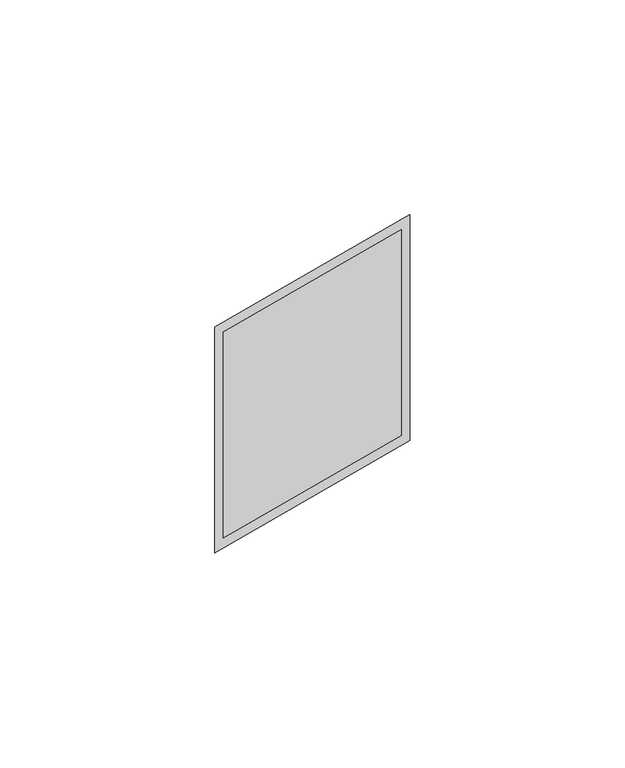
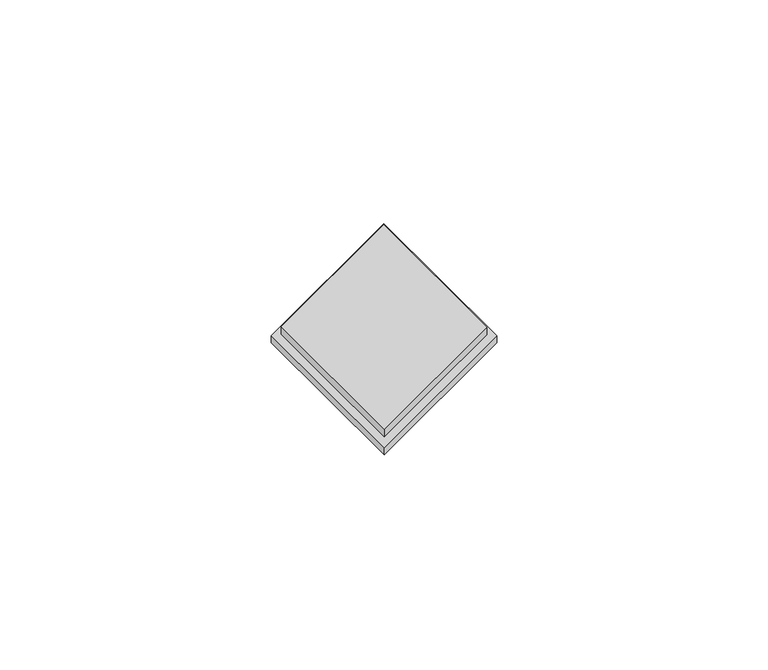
"""IFC4 building model written with IfcOpenShell, lengths in millimetres: proxy geometry, PBSHOP - CUBICA ARGENTO 4,8X8,3 : CUBICA ARGENTO - POSIÇÃO 01."""

import ifcopenshell
import ifcopenshell.guid

model = None  # the IFC model being written
_history = None  # IfcOwnerHistory: only IFC2X3 demands one
_inside = {}  # id of a spatial element -> (the spatial element, [elements in it])
_under = {}  # id of a project, library or spatial element -> (it, [spatial elements below it])
_declared = {}  # id of a project -> (the project, [libraries it declares])
_typed = {}  # id of a type object -> (the type object, [elements of that type])
_made_of = {}  # id of a material, layer set ... -> (it, [elements and type objects made of it])


def new_model(schema):
    """Start an empty IFC model of exactly this schema.

    Asked for "IFC4X3", IfcOpenShell would pick the latest addendum, in which some entities
    have other attributes; the version numbers below select the first issue.
    IFC2X3 requires an IfcOwnerHistory on every rooted entity: one is made here for all.
    """
    global model, _history
    if schema == "IFC4X3":
        model = ifcopenshell.file(schema_version=(4, 3, 0, 0))
    else:
        model = ifcopenshell.file(schema=schema)
    _inside.clear()
    _under.clear()
    _declared.clear()
    _typed.clear()
    _made_of.clear()
    _history = None
    if model.schema == "IFC2X3":
        org = make("IfcOrganization", Name="unknown")
        user = make(
            "IfcPersonAndOrganization",
            ThePerson=make("IfcPerson", FamilyName="unknown"),
            TheOrganization=org,
        )
        app = make(
            "IfcApplication",
            ApplicationDeveloper=org,
            Version="unknown",
            ApplicationFullName="unknown",
            ApplicationIdentifier="unknown",
        )
        _history = make(
            "IfcOwnerHistory",
            OwningUser=user,
            OwningApplication=app,
            ChangeAction="ADDED",
            CreationDate=0,
        )
    return model


def make(cls, **values):
    """One entity of the class cls with the attributes given. An attribute that is None is left unset."""
    return model.create_entity(
        cls, **{name: value for name, value in values.items() if value is not None}
    )


def rooted(cls, **values):
    """An entity with a GlobalId (a new one), such as an element, a storey or a relation."""
    return make(cls, GlobalId=ifcopenshell.guid.new(), OwnerHistory=_history, **values)


def si_unit(unit_type, name, prefix=None):
    """IfcSIUnit, for example si_unit("LENGTHUNIT", "METRE", prefix="MILLI")."""
    return make("IfcSIUnit", UnitType=unit_type, Prefix=prefix, Name=name)


def assignment(units):
    """IfcUnitAssignment: the units of a project."""
    return None if units is None else make("IfcUnitAssignment", Units=units)


def point(xyz):
    """IfcCartesianPoint."""
    return None if xyz is None else make("IfcCartesianPoint", Coordinates=xyz)


def direction(xyz):
    """IfcDirection."""
    return None if xyz is None else make("IfcDirection", DirectionRatios=xyz)


def frame(location, z_axis=None, x_axis=None):
    """IfcAxis2Placement3D, a coordinate frame: its origin and axes. An axis left out is left unset."""
    return make(
        "IfcAxis2Placement3D",
        Location=point(location),
        Axis=direction(z_axis),
        RefDirection=direction(x_axis),
    )


def origin():
    """The frame at (0, 0, 0) with its axes left unset."""
    return frame((0.0, 0.0, 0.0))


def origin_with_axes():
    """The frame at (0, 0, 0) with the z axis (0, 0, 1) and the x axis (1, 0, 0) written out."""
    return frame((0.0, 0.0, 0.0), z_axis=(0.0, 0.0, 1.0), x_axis=(1.0, 0.0, 0.0))


def place(relative_to, where):
    """IfcLocalPlacement: puts the frame where relative to a parent placement (None: the world)."""
    return make(
        "IfcLocalPlacement", PlacementRelTo=relative_to, RelativePlacement=where
    )


def context(
    kind, dimensions, precision=None, world=None, true_north=None, identifier=None
):
    """IfcGeometricRepresentationContext, for example the 3D "Model" context."""
    return make(
        "IfcGeometricRepresentationContext",
        ContextIdentifier=identifier,
        ContextType=kind,
        CoordinateSpaceDimension=dimensions,
        Precision=precision,
        WorldCoordinateSystem=world,
        TrueNorth=true_north,
    )


def project(units=None, contexts=None):
    """IfcProject with its units and contexts."""
    return rooted(
        "IfcProject",
        Name="project",
        RepresentationContexts=contexts,
        UnitsInContext=assignment(units),
    )


def spatial(cls, under=None, at=None, **own):
    """A site, building, storey or space (cls), placed at a placement, below another one or the project."""
    s = rooted(cls, ObjectPlacement=at, **own)
    if under is not None:
        _under.setdefault(under.id(), (under, []))[1].append(s)
    return s


def polyline(points):
    """IfcPolyline through the points."""
    return make("IfcPolyline", Points=[point(p) for p in points])


def outline(outer, holes=None, kind="AREA"):
    """IfcArbitraryClosedProfileDef: a profile drawn as a closed curve; with holes, ...WithVoids."""
    if holes is None:
        return make("IfcArbitraryClosedProfileDef", ProfileType=kind, OuterCurve=outer)
    return make(
        "IfcArbitraryProfileDefWithVoids",
        ProfileType=kind,
        OuterCurve=outer,
        InnerCurves=holes,
    )


def extrude(swept, where, along, depth):
    """IfcExtrudedAreaSolid: the profile swept, set in the frame where, extruded along a direction by depth."""
    return make(
        "IfcExtrudedAreaSolid",
        SweptArea=swept,
        Position=where,
        ExtrudedDirection=direction(along),
        Depth=depth,
    )


def shape(context_of_items, identifier, shape_type, items):
    """IfcShapeRepresentation: the items that make up one representation, for example the "Body"."""
    return make(
        "IfcShapeRepresentation",
        ContextOfItems=context_of_items,
        RepresentationIdentifier=identifier,
        RepresentationType=shape_type,
        Items=items,
    )


def source(mapping_origin, context_of_items, identifier, shape_type, items):
    """IfcRepresentationMap: a shape defined once, which mapped items show again and again."""
    return make(
        "IfcRepresentationMap",
        MappingOrigin=mapping_origin,
        MappedRepresentation=shape(context_of_items, identifier, shape_type, items),
    )


def transform(
    local_origin,
    x_axis=None,
    y_axis=None,
    z_axis=None,
    scale=None,
    scale2=None,
    scale3=None,
    uniform=True,
):
    """IfcCartesianTransformationOperator3D, or its non-uniform kind. x_axis, y_axis, z_axis: its Axis1, 2, 3."""
    if uniform:
        return make(
            "IfcCartesianTransformationOperator3D",
            Axis1=direction(x_axis),
            Axis2=direction(y_axis),
            LocalOrigin=point(local_origin),
            Scale=scale,
            Axis3=direction(z_axis),
        )
    return make(
        "IfcCartesianTransformationOperator3DnonUniform",
        Axis1=direction(x_axis),
        Axis2=direction(y_axis),
        LocalOrigin=point(local_origin),
        Scale=scale,
        Axis3=direction(z_axis),
        Scale2=scale2,
        Scale3=scale3,
    )


def mapped(mapping_source, mapping_target):
    """IfcMappedItem: shows the shape of a source again, moved by a transform."""
    return make(
        "IfcMappedItem", MappingSource=mapping_source, MappingTarget=mapping_target
    )


def made_of(thing, what):
    """Note that an element or type object is made of a material, layer set ...; save() writes the relation."""
    if what is not None:
        _made_of.setdefault(what.id(), (what, []))[1].append(thing)
    return thing


def element(
    cls,
    number,
    at=None,
    inside=None,
    cuts=None,
    type_object=None,
    material=None,
    context=None,
    identifier="Body",
    shape_type=None,
    held_by="IfcProductDefinitionShape",
    body=None,
    shapes=None,
    **own,
):
    """One element of the class cls, such as IfcWall. Its Tag is "e" and its number.

    at: its placement. inside: the storey or other place that contains it. cuts: it is an
    opening in that element (IfcRelVoidsElement). A single representation is given by context,
    identifier, shape_type and body (its items); several are given by shapes. held_by: the class
    of the entity that holds the representations. save() writes the other relations.
    """
    e = rooted(cls, Tag="e%d" % number, ObjectPlacement=at, **own)
    if body is not None:
        shapes = [shape(context, identifier, shape_type, body)]
    if shapes is not None:
        e.Representation = make(held_by, Representations=shapes)
    if inside is not None:
        _inside.setdefault(inside.id(), (inside, []))[1].append(e)
    if cuts is not None:
        rooted(
            "IfcRelVoidsElement", RelatingBuildingElement=cuts, RelatedOpeningElement=e
        )
    if type_object is not None:
        _typed.setdefault(type_object.id(), (type_object, []))[1].append(e)
    return made_of(e, material)


def aggregate(whole, parts):
    """IfcRelAggregates: a whole, such as a stair, and the parts it consists of."""
    return rooted("IfcRelAggregates", RelatingObject=whole, RelatedObjects=parts)


def save(model, path):
    """Write the relations noted so far, then the file.

    IfcRelAggregates (storeys below a building ...), IfcRelContainedInSpatialStructure (elements
    in a storey), IfcRelDefinesByType, IfcRelAssociatesMaterial and IfcRelDeclares: one each for
    every whole, place, type object, material and project.
    """
    for whole, parts in _under.values():
        aggregate(whole, parts)
    for where, things in _inside.values():
        rooted(
            "IfcRelContainedInSpatialStructure",
            RelatedElements=things,
            RelatingStructure=where,
        )
    for kind, things in _typed.values():
        rooted("IfcRelDefinesByType", RelatedObjects=things, RelatingType=kind)
    for what, things in _made_of.values():
        rooted("IfcRelAssociatesMaterial", RelatedObjects=things, RelatingMaterial=what)
    for by, libraries in _declared.values():
        rooted("IfcRelDeclares", RelatingContext=by, RelatedDefinitions=libraries)
    model.write(path)


def generic_models_5d175859(model_context):
    return source(origin(), model_context, "Body", "SweptSolid", [
        extrude(outline(polyline([(22.7119765, -13.1167077), (-22.7076581, -39.339746), (-22.7076581, 13.1991285), (22.7119765, 39.4221668), (22.7119765, -13.1167077)])), origin_with_axes(), (0.0, 0.0, 1.0), 2.0),
        extrude(outline(polyline([(-20.7076581, -35.8756443), (-20.7076581, 12.044428), (20.7119765, 35.9580652), (20.7119765, -11.9620071), (-20.7076581, -35.8756443)])), frame((0.0, 0.0, 2.0), z_axis=(0.0, 0.0, 1.0), x_axis=(1.0, 0.0, 0.0)), (0.0, 0.0, 1.0), 2.5),
    ])


if __name__ == "__main__":
    model = new_model("IFC4")
    model_context = context("Model", 3, world=origin())
    ifc_project = project(units=[si_unit("LENGTHUNIT", "METRE", prefix="MILLI")], contexts=[model_context])
    site = spatial("IfcSite", under=ifc_project)
    building = spatial("IfcBuilding", under=site)
    placement = place(None, origin())
    generic_models_shape = generic_models_5d175859(model_context)
    element("IfcBuildingElementProxy", 1, Name="PBSHOP - CUBICA ARGENTO 4,8X8,3 : CUBICA ARGENTO - POSIÇÃO 01", ObjectType="PBSHOP - CUBICA ARGENTO 4,8X8,3 : CUBICA ARGENTO - POSIÇÃO 01", at=placement, inside=building, context=model_context, shape_type="MappedRepresentation", body=[
        mapped(generic_models_shape, transform((0.0, 0.0, 0.0), x_axis=(1.0, 0.0, 0.0), y_axis=(0.0, 1.0, 0.0), z_axis=(0.0, 0.0, 1.0))),
    ])
    save(model, "model.ifc")
